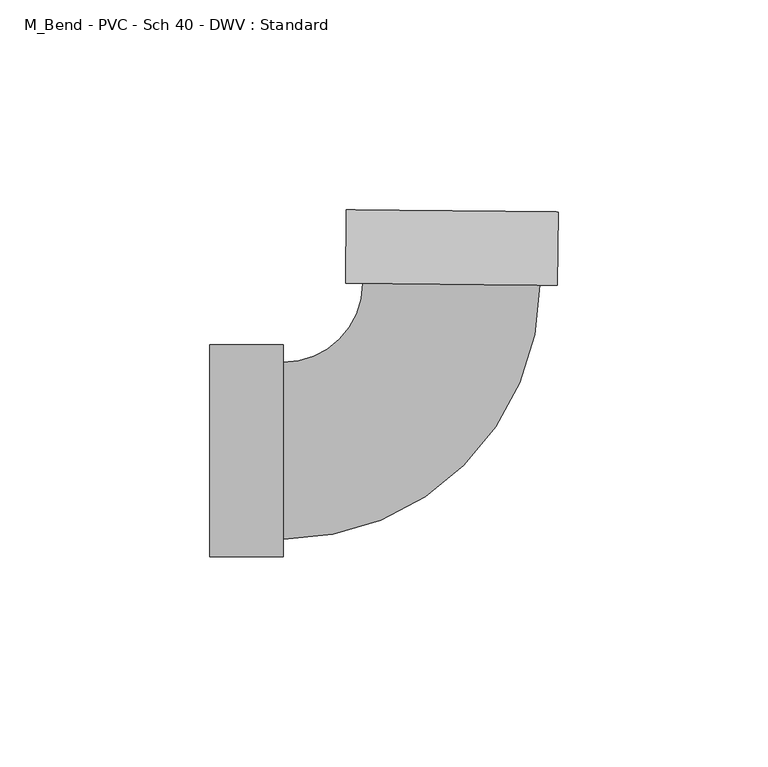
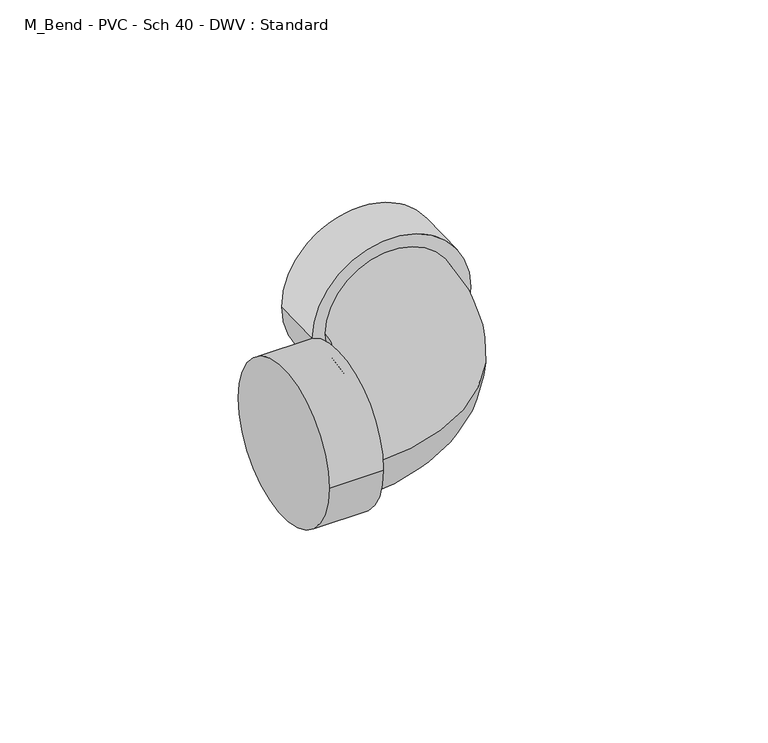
"""IFC4 building model written with IfcOpenShell, lengths in millimetres: pipe fitting geometry, M_Bend - PVC - Sch 40 - DWV : Standard."""

from ifc_helpers import new_model, si_unit, point, frame, origin, place, context, project, spatial, circle_curve, ellipse_curve, trimmed, source, transform, mapped, element, save
from ifc_brep_helpers import plane_surface, cylinder_surface, revolved_surface, advanced_brep


def m_bend_pvc_sch_40_dwv_standard_aca7b112(model_context):
    return source(origin(), model_context, "Body", "AdvancedBrep", [
        advanced_brep(
        [(-57.15, -25.2349, 0.0), (-57.15, 25.2349, 0.0), (-39.7002, -25.2349, 0.0), (-39.7002, 25.2349, 0.0), (-39.7002, -21.082, 0.0), (-39.7002, 21.082, 0.0), (-20.6844146, 39.908791, 0.0), (21.4774821, 39.4876483, 0.0), (25.6301749, 39.4461683, 0.0), (-24.8371075, 39.950271, 0.0), (25.8044671, 56.8950978, 0.0), (-24.6628153, 57.3992005, 0.0)],
        [
            (0, 1, circle_curve(frame((-57.15, 0.0, 0.0), z_axis=(-1.0, 0.0, 0.0), x_axis=(0.0, 1.0, 0.0)), 25.2349)),
            (1, 0, circle_curve(frame((-57.15, 0.0, 0.0), z_axis=(-1.0, 0.0, 0.0), x_axis=(0.0, 1.0, 0.0)), 25.2349)),
            (2, 3, circle_curve(frame((-39.7002, 0.0, 0.0), z_axis=(1.0, 0.0, 0.0), x_axis=(0.0, 1.0, 0.0)), 25.2349)),
            (3, 2, circle_curve(frame((-39.7002, 0.0, 0.0), z_axis=(1.0, 0.0, 0.0), x_axis=(0.0, 1.0, 0.0)), 25.2349)),
            (4, 5, circle_curve(frame((-39.7002, 0.0, 0.0), z_axis=(-1.0, 0.0, 0.0), x_axis=(0.0, 1.0, 0.0)), 21.082)),
            (5, 4, circle_curve(frame((-39.7002, 0.0, 0.0), z_axis=(-1.0, 0.0, 0.0), x_axis=(0.0, 1.0, 0.0)), 21.082)),
            (0, 2),
            (3, 1),
            (6, 5, circle_curve(frame((-39.7002, 40.098734, 0.0), z_axis=(0.0, 0.0, -1.0), x_axis=(0.0, -1.0, 0.0)), 19.016734)),
            (4, 7, circle_curve(frame((-39.7002, 40.098734, 0.0), z_axis=(0.0, 0.0, 1.0), x_axis=(0.0, -1.0, 0.0)), 61.180734)),
            (7, 6, circle_curve(frame((0.3965337, 39.6982196, 0.0), z_axis=(-0.009988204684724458, -0.9999501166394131, 0.0), x_axis=(-0.9999501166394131, 0.009988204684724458, 0.0)), 21.082)),
            (6, 7, circle_curve(frame((0.3965337, 39.6982196, 0.0), z_axis=(-0.009988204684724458, -0.9999501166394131, 0.0), x_axis=(-0.9999501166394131, 0.009988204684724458, 0.0)), 21.082)),
            (8, 9, circle_curve(frame((0.3965337, 39.6982196, 0.0), z_axis=(-0.009988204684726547, -0.9999501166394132, 0.0), x_axis=(-0.9999501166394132, 0.009988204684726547, 0.0)), 25.2349)),
            (9, 8, circle_curve(frame((0.3965337, 39.6982196, 0.0), z_axis=(-0.009988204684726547, -0.9999501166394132, 0.0), x_axis=(-0.9999501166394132, 0.009988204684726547, 0.0)), 25.2349)),
            (10, 11, circle_curve(frame((0.5708259, 57.1471492, 0.0), z_axis=(0.009988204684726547, 0.9999501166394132, 0.0), x_axis=(-0.9999501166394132, 0.009988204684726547, 0.0)), 25.2349)),
            (11, 10, circle_curve(frame((0.5708259, 57.1471492, 0.0), z_axis=(0.009988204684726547, 0.9999501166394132, 0.0), x_axis=(-0.9999501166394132, 0.009988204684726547, 0.0)), 25.2349)),
            (8, 10),
            (11, 9),
        ],
        [
            plane_surface(frame((-57.15, 0.0, 0.0), z_axis=(-1.0, 0.0, 0.0), x_axis=(0.0, 0.0, 1.0))),
            plane_surface(frame((-39.7002, 0.0, 0.0), z_axis=(1.0, 0.0, 0.0), x_axis=(0.0, 0.0, 1.0))),
            cylinder_surface(frame((-57.15, 0.0, 0.0), z_axis=(-1.0, 0.0, 0.0), x_axis=(0.0, 1.0, 0.0)), 25.2349),
            revolved_surface(trimmed(ellipse_curve(frame((-39.7002, 0.0, 0.0), z_axis=(-1.0, 0.0, 0.0), x_axis=(0.0, 1.0, 0.0)), 21.082, 21.082), [point((-39.7002, -21.082, 0.0))], [point((-39.7002, 21.082, 0.0))], True, "CARTESIAN"), (-39.7002, 40.098734, 0.0), (0.0, 0.0, 1.0)),
            revolved_surface(trimmed(ellipse_curve(frame((-39.7002, 0.0, 0.0), z_axis=(-1.0, 0.0, 0.0), x_axis=(0.0, 1.0, 0.0)), 21.082, 21.082), [point((-39.7002, 21.082, 0.0))], [point((-39.7002, -21.082, 0.0))], True, "CARTESIAN"), (-39.7002, 40.098734, 0.0), (0.0, 0.0, 1.0)),
            plane_surface(frame((0.3965337, 39.6982196, 0.0), z_axis=(-0.009988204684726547, -0.9999501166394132, 0.0), x_axis=(0.0, 0.0, 1.0))),
            plane_surface(frame((0.5708259, 57.1471492, 0.0), z_axis=(0.009988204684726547, 0.9999501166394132, 0.0), x_axis=(0.0, 0.0, 1.0))),
            cylinder_surface(frame((0.3965337, 39.6982196, 0.0), z_axis=(-0.009988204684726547, -0.9999501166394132, 0.0), x_axis=(-0.9999501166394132, 0.009988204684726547, 0.0)), 25.2349),
        ],
        [
            (0, [[1, 2]]),
            (1, [[3, 4], [5, 6]]),
            (2, [[-1, 7, -4, 8]]),
            (2, [[-2, -8, -3, -7]]),
            (3, [[9, -5, 10, 11]]),
            (4, [[-9, 12, -10, -6]]),
            (5, [[13, 14], [-11, -12]]),
            (6, [[15, 16]]),
            (7, [[-13, 17, -16, 18]]),
            (7, [[-14, -18, -15, -17]]),
        ],
    ),
    ])


if __name__ == "__main__":
    model = new_model("IFC4")
    model_context = context("Model", 3, world=origin())
    ifc_project = project(units=[si_unit("LENGTHUNIT", "METRE", prefix="MILLI")], contexts=[model_context])
    site = spatial("IfcSite", under=ifc_project)
    building = spatial("IfcBuilding", under=site)
    placement = place(None, origin())
    m_bend_pvc_sch_40_dwv_standard_shape = m_bend_pvc_sch_40_dwv_standard_aca7b112(model_context)
    element("IfcPipeFitting", 1, ObjectType="M_Bend - PVC - Sch 40 - DWV : Standard", at=placement, inside=building, context=model_context, shape_type="MappedRepresentation", body=[
        mapped(m_bend_pvc_sch_40_dwv_standard_shape, transform((0.0, 0.0, 0.0), x_axis=(1.0, 0.0, 0.0), y_axis=(0.0, 1.0, 0.0), z_axis=(0.0, 0.0, 1.0))),
    ])
    save(model, "model.ifc")
